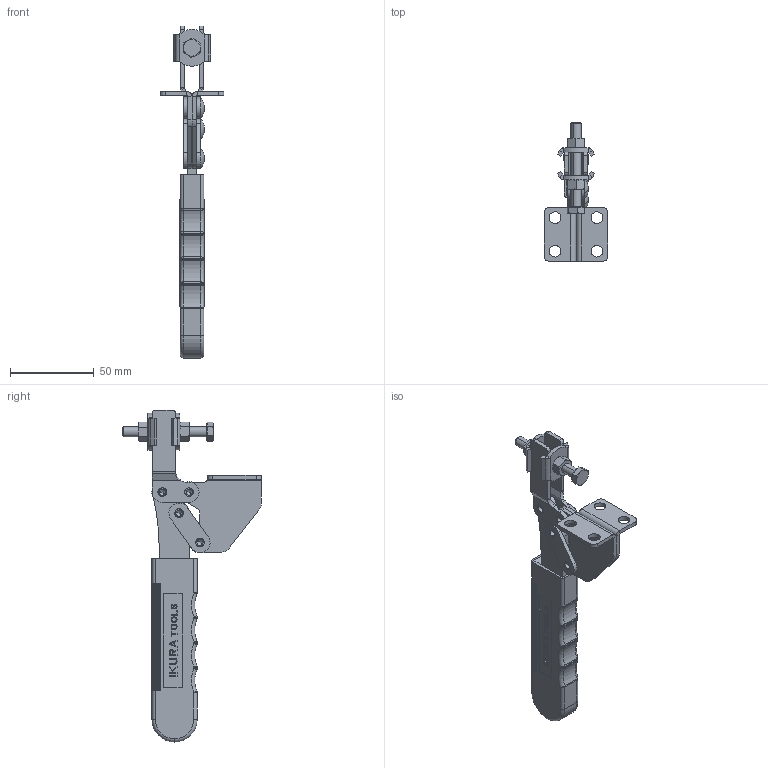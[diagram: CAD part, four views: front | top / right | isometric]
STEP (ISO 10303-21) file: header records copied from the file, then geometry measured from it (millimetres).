
FILE_DESCRIPTION (( 'STEP AP214' ), '1' );
FILE_NAME ('ISK-38C小０.STEP', '2015-06-29T09:58:24', ( '' ), ( '' ), 'SwSTEP 2.0', 'SolidWorks 2015', '' );
FILE_SCHEMA (( 'AUTOMOTIVE_DESIGN' ));
Length unit declared in the file: millimetre
Products named in the file (12): ISK-38C小０; truss head semi-tubuar rivets gb_GB_RIVETS_ROUND_TYPE90 5X10; hexagon nut style 2_ab_jis_JIS B 1181 Hexagon nut - style 2 A M6 - D --N; continuous thread hexagon head bolt_a_jis_JIS B 1180 Continuous thread hexagon head bolt A M6 x 50 --N; Washer_D6-15; Base-L; Grip; Handle; Arm-L; Arm-R; Link; Base-R
Assembly tree (17 placements, depth 2):
  ISK-38C小０
    Base-R
    Link  x2
    Arm-R
    Arm-L
    Handle
    Grip
    Base-L
    Washer_D6-15  x2
    continuous thread hexagon head bolt_a_jis_JIS B 1180 Continuous thread hexagon head bolt A M6 x 50 --N
    hexagon nut style 2_ab_jis_JIS B 1181 Hexagon nut - style 2 A M6 - D --N  x2
    truss head semi-tubuar rivets gb_GB_RIVETS_ROUND_TYPE90 5X10  x4
Bounding box: 38 x 82.52 x 198 mm (x, y, z)
Volume: 62700.6 mm3; surface area: 39839.9 mm2
Topology: 17 solids, 17 shells, 1524 faces, 4176 edges, 2702 vertices
Faces by surface type: plane 860, cylinder 412, bspline 158, cone 48, sphere 24, torus 22
Entity records: 51888 total; most frequent: CARTESIAN_POINT 15358, ORIENTED_EDGE 7880, DIRECTION 6982, EDGE_CURVE 3940, VECTOR 2746, LINE 2746, VERTEX_POINT 2574, AXIS2_PLACEMENT_3D 2118
